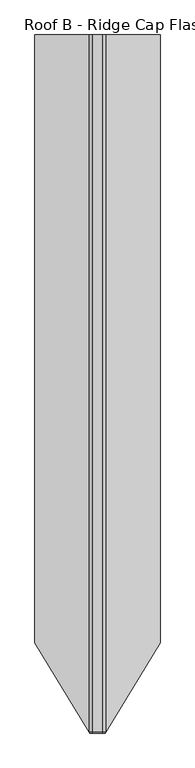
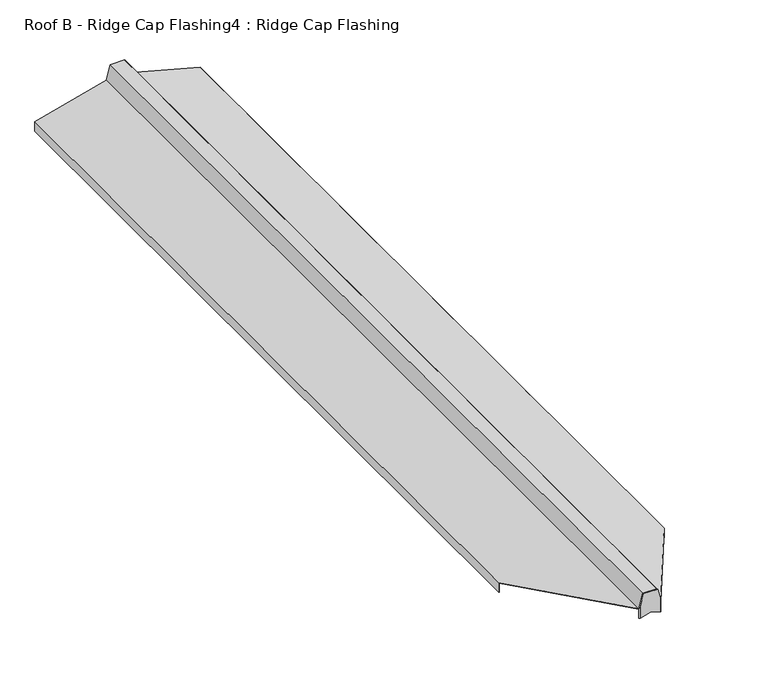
"""IFC4 building model written with IfcOpenShell, lengths in millimetres: proxy geometry, Roof B - Ridge Cap Flashing4 : Ridge Cap Flashing."""

from ifc_helpers import new_model, si_unit, origin, place, context, project, spatial, faceted_brep, source, transform, mapped, element, save


def roof_b_ridge_cap_flashing4_ridge_cap_flashing_998f8a7d(model_context):
    return source(origin(), model_context, "Body", "Brep", [
        faceted_brep([(-22624.1188877, -34339.0446689, 4943.6791939), (-22679.8669197, -34339.0446689, 4943.6791939), (-22692.8044785, -34339.0446689, 4895.3955671), (-22692.8044785, -34339.0446689, 4846.7153056), (-22651.9929037, -34339.0446689, 4857.6507341), (-22611.1813289, -34339.0446689, 4846.7153056), (-22611.1813289, -34339.0446689, 4895.3955671), (-22695.6271508, -34334.3793575, 4884.8612105), (-22679.8669197, -34334.3793575, 4943.6791939), (-22624.1188877, -34334.3793575, 4943.6791939), (-22608.3586565, -34334.3793575, 4884.8612105), (-22608.3586565, -34334.3793575, 4845.9589728), (-22651.9929037, -34334.3793575, 4857.6507341), (-22695.6271508, -34334.3793575, 4845.9589728)], [[[0, 1, 2, 3, 4, 5, 6]], [[7, 8, 9, 10, 11, 12, 13]], [[4, 12, 11, 5]], [[12, 4, 3, 13]], [[10, 9, 0, 6]], [[1, 0, 9, 8]], [[8, 7, 2, 1]], [[6, 5, 11, 10]], [[3, 2, 7, 13]]]),
        faceted_brep([(-22679.8669197, -30716.3625524, 4943.6791939), (-22624.1188877, -30716.3625524, 4943.6791939), (-22608.3586565, -30716.3625524, 4884.8612105), (-22327.3999956, -30716.3625524, 4809.5785642), (-22327.3999956, -30716.3625524, 4770.6763265), (-22328.3999956, -30716.3625524, 4770.6763265), (-22328.3999956, -30716.3625524, 4808.8112372), (-22609.1751531, -30716.3625524, 4884.0447139), (-22624.8862147, -30716.3625524, 4942.6791939), (-22679.0995927, -30716.3625524, 4942.6791939), (-22694.8106542, -30716.3625524, 4884.0447139), (-22975.5858118, -30716.3625524, 4808.8112372), (-22975.5858118, -30716.3625524, 4770.6763265), (-22976.5858118, -30716.3625524, 4770.6763265), (-22976.5858118, -30716.3625524, 4809.5785642), (-22695.6271508, -30716.3625524, 4884.8612105), (-22679.0995927, -34334.3793575, 4942.6791939), (-22624.8862147, -34334.3793575, 4942.6791939), (-22609.1751531, -34334.3793575, 4884.0447139), (-22608.3586565, -34334.3793575, 4883.8259343), (-22608.3586565, -34334.3793575, 4884.8612105), (-22624.1188877, -34334.3793575, 4943.6791939), (-22679.8669197, -34334.3793575, 4943.6791939), (-22695.6271508, -34334.3793575, 4884.8612105), (-22695.6271508, -34334.3793575, 4883.8259343), (-22694.8106542, -34334.3793575, 4884.0447139), (-22975.5858118, -33871.663829, 4808.8112372), (-22976.5858118, -33870.0110295, 4809.5785642), (-22975.5858118, -33871.663829, 4770.6763265), (-22976.5858118, -33870.0110295, 4770.6763265), (-22327.3999956, -33870.0110295, 4809.5785642), (-22327.3999956, -33870.0110295, 4770.6763265), (-22328.3999956, -33871.663829, 4770.6763265), (-22328.3999956, -33871.663829, 4808.8112372)], [[[0, 1, 2, 3, 4, 5, 6, 7, 8, 9, 10, 11, 12, 13, 14, 15]], [[16, 17, 18, 19, 20, 21, 22, 23, 24, 25]], [[1, 0, 22, 21]], [[2, 1, 21, 20]], [[8, 7, 18, 17]], [[9, 8, 17, 16]], [[11, 10, 25, 24, 26]], [[15, 14, 27, 23]], [[10, 9, 16, 25]], [[12, 11, 26, 28]], [[13, 12, 28, 29]], [[14, 13, 29, 27]], [[0, 15, 23, 22]], [[3, 2, 20, 30]], [[4, 3, 30, 31]], [[5, 4, 31, 32]], [[6, 5, 32, 33]], [[7, 6, 33, 19, 18]], [[20, 19, 33, 32, 31, 30]], [[24, 23, 27, 29, 28, 26]]]),
    ])


if __name__ == "__main__":
    model = new_model("IFC4")
    model_context = context("Model", 3, world=origin())
    ifc_project = project(units=[si_unit("LENGTHUNIT", "METRE", prefix="MILLI")], contexts=[model_context])
    site = spatial("IfcSite", under=ifc_project)
    building = spatial("IfcBuilding", under=site)
    placement = place(None, origin())
    roof_b_ridge_cap_flashing4_ridge_cap_flashing_shape = roof_b_ridge_cap_flashing4_ridge_cap_flashing_998f8a7d(model_context)
    element("IfcBuildingElementProxy", 1, Name="Roof B - Ridge Cap Flashing4 : Ridge Cap Flashing", ObjectType="Roof B - Ridge Cap Flashing4 : Ridge Cap Flashing", at=placement, inside=building, context=model_context, shape_type="MappedRepresentation", body=[
        mapped(roof_b_ridge_cap_flashing4_ridge_cap_flashing_shape, transform((0.0, 0.0, 0.0), x_axis=(1.0, 0.0, 0.0), y_axis=(0.0, 1.0, 0.0), z_axis=(0.0, 0.0, 1.0))),
    ])
    save(model, "model.ifc")
